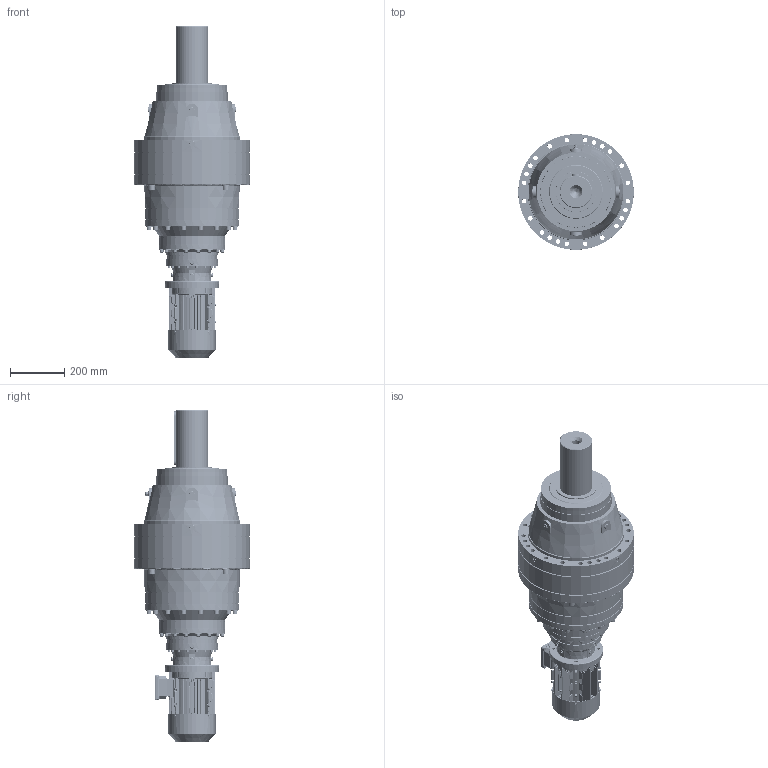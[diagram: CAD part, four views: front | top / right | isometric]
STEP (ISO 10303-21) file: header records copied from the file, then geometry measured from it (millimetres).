
FILE_DESCRIPTION (( 'STEP AP203' ), '1' );
FILE_NAME ('PVL_2904L-MX90S-4.STEP', '2019-05-09T10:45:55', ( '' ), ( '' ), 'SwSTEP 2.0', 'SolidWorks 2012', '' );
FILE_SCHEMA (( 'CONFIG_CONTROL_DESIGN' ));
Products named in the file (33): PNL_2904L_0_0_A09_B5_ML49A_FL15A_0_0_0_0_0_0_0_0_0_0_0_M1; FL15A_Varsayìlan; EK2904L_Varsayìlan; ML49A_Varsayìlan; 1190B5_Varsayìlan; P29_Varsayìlan; PVL_2904L-MX90S-4; MX3-90S_B5; cross recessed pan head screws gb_GB_CROSS_SCREWS_TYPE1 M4X6-6  H type-N; hexagon socket head cap screws gb_GB_FASTENER_SCREWS_HSHCS M6X30-N_2; hexagon socket head cap screws gb_GB_FASTENER_SCREWS_HSHCS M6X25-N_1; hexagon socket head cap screws gb_GB_FASTENER_SCREWS_HSHCS M6X40-N; IE3 90L cable glandsM16_2; IE3 90S flange_2; circlips for shaft--type b gb_GB_CONNECTING_PIECE_RINGS_CSB 20_2; IE3 90S  oil seal_2; hexagon head bolts-full thread gb_GB_FASTENER_BOLT_STBAB A M4X16-N_2; cross recessed pan head screws gb_GB_CROSS_SCREWS_TYPE1 M5X10-10  H type-N_2; IE3 90S connection board_2; cross recessed pan head screws gb_GB_CROSS_SCREWS_TYPE1 M5X20-20  H type-N_2; cross recessed pan head tapping screws gb_GB_CROSS_SCREWS_TYPE128 ST4.2X9.5 H C-N_2; spring lock washers--normal type gb_GB_FASTENER_WASHER_SW 6_2; hex nuts, style 1-grades ab gb_GB_FASTENER_NUT_SNAB1 M6-N_2; hexagon flange head tapping screws gb_GB_SQUARE_AND_HEXAGON_TYPE137 ST3.5X9.5 F-N_2; IE3 90S terminal box_2; plain parallel keys_GB_CONNECTING_PIECE_KEYS_CSK 8X40_2; IE3 90S terminal box cover_2; IE3 90S fan cover_2; IE3 90S rotor_2; deep groove ball bearings gb_Rolling bearings 6205 GB 276-94_2; IE3 90S fan_2; IE3 90S flangeB5; IE3 90S casing_2
Assembly tree (68 placements, depth 3):
  PVL_2904L-MX90S-4
    PNL_2904L_0_0_A09_B5_ML49A_FL15A_0_0_0_0_0_0_0_0_0_0_0_M1
      P29_Varsayìlan
      1190B5_Varsayìlan
      ML49A_Varsayìlan
      EK2904L_Varsayìlan
      FL15A_Varsayìlan
    MX3-90S_B5
      IE3 90S casing_2
      IE3 90S flangeB5
      IE3 90S rotor_2
      deep groove ball bearings gb_Rolling bearings 6205 GB 276-94_2  x2
      IE3 90S fan_2
      IE3 90S fan cover_2
      plain parallel keys_GB_CONNECTING_PIECE_KEYS_CSK 8X40_2
      IE3 90S terminal box_2
      IE3 90S terminal box cover_2
      spring lock washers--normal type gb_GB_FASTENER_WASHER_SW 6_2  x8
      hex nuts, style 1-grades ab gb_GB_FASTENER_NUT_SNAB1 M6-N_2  x7
      cross recessed pan head tapping screws gb_GB_CROSS_SCREWS_TYPE128 ST4.2X9.5 H C-N_2  x4
      hexagon flange head tapping screws gb_GB_SQUARE_AND_HEXAGON_TYPE137 ST3.5X9.5 F-N_2  x4
      IE3 90S connection board_2
      hexagon head bolts-full thread gb_GB_FASTENER_BOLT_STBAB A M4X16-N_2  x6
      cross recessed pan head screws gb_GB_CROSS_SCREWS_TYPE1 M5X20-20  H type-N_2  x2
      cross recessed pan head screws gb_GB_CROSS_SCREWS_TYPE1 M5X10-10  H type-N_2  x4
      IE3 90L cable glandsM16_2  x2
      circlips for shaft--type b gb_GB_CONNECTING_PIECE_RINGS_CSB 20_2
      IE3 90S  oil seal_2
      IE3 90S flange_2
      hexagon socket head cap screws gb_GB_FASTENER_SCREWS_HSHCS M6X40-N  x3
      hexagon socket head cap screws gb_GB_FASTENER_SCREWS_HSHCS M6X25-N_1
      hexagon socket head cap screws gb_GB_FASTENER_SCREWS_HSHCS M6X30-N_2  x4
      cross recessed pan head screws gb_GB_CROSS_SCREWS_TYPE1 M4X6-6  H type-N  x2
Bounding box: 428 x 428 x 1228.1 mm (x, y, z)
Volume: 64719564.6 mm3; surface area: 2895799.9 mm2
Topology: 74 solids, 74 shells, 8178 faces, 21331 edges, 13275 vertices
Faces by surface type: plane 3161, cylinder 2489, bspline 1799, cone 604, sphere 81, torus 44
Entity records: 292207 total; most frequent: CARTESIAN_POINT 119711, ORIENTED_EDGE 37736, DIRECTION 31875, EDGE_CURVE 18868, VERTEX_POINT 11888, AXIS2_PLACEMENT_3D 11874, LINE 8127, VECTOR 8127
